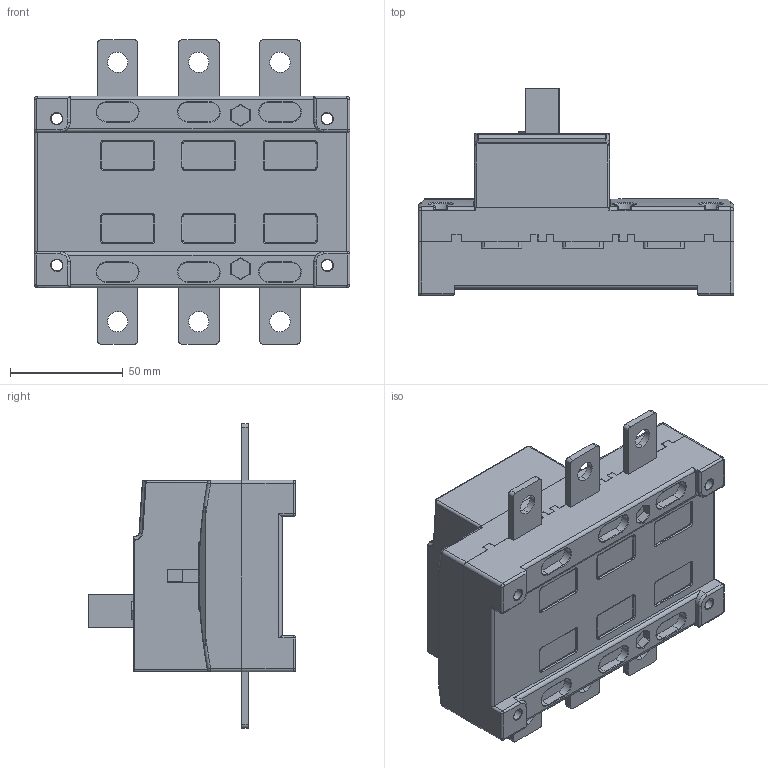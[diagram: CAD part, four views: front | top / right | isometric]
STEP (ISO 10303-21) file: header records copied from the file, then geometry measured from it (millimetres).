
FILE_DESCRIPTION((''),'2;1');
FILE_NAME('NH40-125-3_2021_05__ASM','2021-05-07T',('zhuanghy'),(''),'PRO/ENGINEER BY PARAMETRIC TECHNOLOGY CORPORATION, 2008380','PRO/ENGINEER BY PARAMETRIC TECHNOLOGY CORPORATION, 2008380','');
FILE_SCHEMA(('CONFIG_CONTROL_DESIGN'));
Length unit declared in the file: millimetre
Products named in the file (9): PRT1118_41_1; PRT0102_59_1; PRT001_13_1; PRT0030_1; NH40-160POCHA_61_1; ASM0003_ASM_5_ASM_ASM_1_ASM; ASM0001_ASM_1_ASM; NH40-160-3_ASM_ASM_1_ASM; NH40-125-3_2021_05__ASM
Assembly tree (13 placements, depth 5):
  NH40-125-3_2021_05__ASM
    NH40-160-3_ASM_ASM_1_ASM
      ASM0001_ASM_1_ASM
        ASM0003_ASM_5_ASM_ASM_1_ASM
          PRT1118_41_1
          PRT0102_59_1
          PRT001_13_1
          PRT0030_1  x6
          NH40-160POCHA_61_1
Bounding box: 140 x 92 x 135 mm (x, y, z)
Volume: 468510 mm3; surface area: 126553.1 mm2
Topology: 10 solids, 10 shells, 1281 faces, 3449 edges, 2205 vertices
Faces by surface type: plane 610, cylinder 454, torus 130, bspline 62, sphere 23, cone 2
Entity records: 42548 total; most frequent: CARTESIAN_POINT 11840, ORIENTED_EDGE 6496, DIRECTION 6361, EDGE_CURVE 3248, AXIS2_PLACEMENT_3D 2218, VERTEX_POINT 2085, VECTOR 1925, LINE 1925
